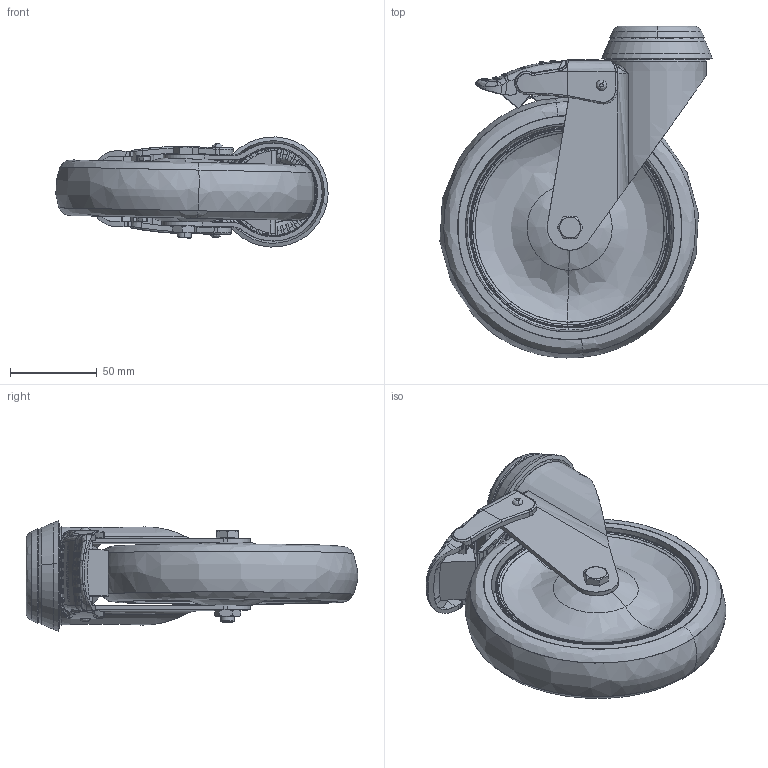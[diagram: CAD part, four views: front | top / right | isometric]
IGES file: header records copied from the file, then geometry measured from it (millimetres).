
Start section: SolidWorks IGES file using analytic representation for surfaces
Global section: file name: S:\Tyokansio\VL\14.2.2012\301589_IGES.IGS; native system: SolidWorks 2011; preprocessor: SolidWorks 2011; author: VilleLa; date: 120228.111040; units: millimetre
Bounding box: 156.54 x 190.94 x 63.32 mm (x, y, z)
Surface area: 157434.6 mm2 (no closed solid volume)
Topology: 0 solids, 0 shells, 726 faces, 10176 edges, 10167 vertices
Faces by surface type: bspline 583, revolution 143
